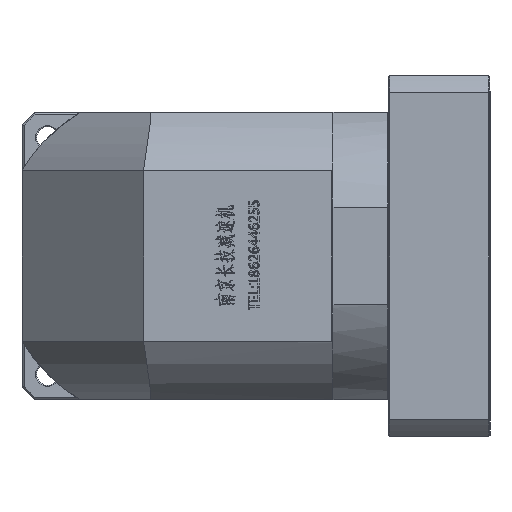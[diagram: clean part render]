
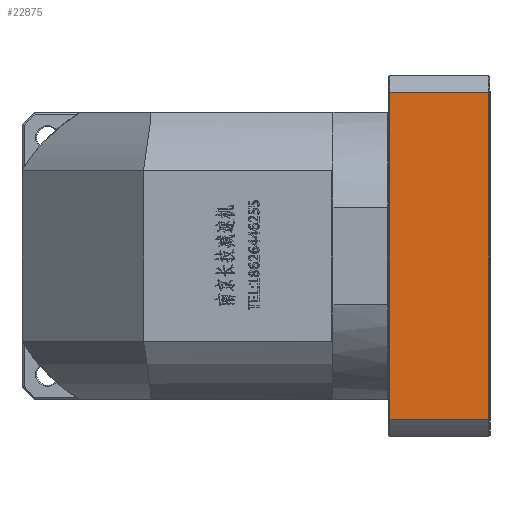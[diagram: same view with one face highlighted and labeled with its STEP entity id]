
A CAD part, left-side view. The second image highlights one B-rep face of the part: STEP entity #22875.
In plain terms, the highlighted planar face has unit normal (-1, 0, 0).
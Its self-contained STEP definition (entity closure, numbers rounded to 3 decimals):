
#1342 = CARTESIAN_POINT ( 'NONE',  ( -128.29, 192.497, 325.24 ) ) ;
#3259 = ORIENTED_EDGE ( 'NONE', *, *, #46669, .F. ) ;
#4909 = DIRECTION ( 'NONE',  ( 0., 1., 0. ) ) ;
#5859 = VECTOR ( 'NONE', #65422, 1000. ) ;
#7370 = CARTESIAN_POINT ( 'NONE',  ( -128.29, -200.308, 155.747 ) ) ;
#10729 = DIRECTION ( 'NONE',  ( 0., 0., -1. ) ) ;
#11055 = ORIENTED_EDGE ( 'NONE', *, *, #19654, .F. ) ;
#13833 = VERTEX_POINT ( 'NONE', #63871 ) ;
#19654 = EDGE_CURVE ( 'NONE', #81152, #73349, #69478, .T. ) ;
#22875 = ADVANCED_FACE ( 'NONE', ( #108217 ), #59469, .F. ) ;
#29700 = VECTOR ( 'NONE', #122266, 1000. ) ;
#45394 = LINE ( 'NONE', #55946, #47482 ) ;
#46669 = EDGE_CURVE ( 'NONE', #58720, #81152, #60637, .T. ) ;
#47482 = VECTOR ( 'NONE', #4909, 1000. ) ;
#54883 = EDGE_CURVE ( 'NONE', #73349, #13833, #45394, .T. ) ;
#55946 = CARTESIAN_POINT ( 'NONE',  ( -128.29, 192.497, 164.255 ) ) ;
#57619 = EDGE_LOOP ( 'NONE', ( #3259, #115563, #139419, #11055 ) ) ;
#58720 = VERTEX_POINT ( 'NONE', #115761 ) ;
#59469 = PLANE ( 'NONE',  #78469 ) ;
#60637 = LINE ( 'NONE', #1342, #5859 ) ;
#63871 = CARTESIAN_POINT ( 'NONE',  ( -128.29, -150.808, 164.255 ) ) ;
#65422 = DIRECTION ( 'NONE',  ( 0., -1., 0. ) ) ;
#69478 = LINE ( 'NONE', #165103, #85746 ) ;
#70574 = CARTESIAN_POINT ( 'NONE',  ( -128.29, -150.808, 155.747 ) ) ;
#73349 = VERTEX_POINT ( 'NONE', #116431 ) ;
#78469 = AXIS2_PLACEMENT_3D ( 'NONE', #7370, #150343, #97550 ) ;
#81152 = VERTEX_POINT ( 'NONE', #105475 ) ;
#82512 = LINE ( 'NONE', #70574, #29700 ) ;
#85746 = VECTOR ( 'NONE', #10729, 1000. ) ;
#97550 = DIRECTION ( 'NONE',  ( 0., 1., 0. ) ) ;
#104942 = EDGE_CURVE ( 'NONE', #13833, #58720, #82512, .T. ) ;
#105475 = CARTESIAN_POINT ( 'NONE',  ( -128.29, -199.808, 325.24 ) ) ;
#108217 = FACE_OUTER_BOUND ( 'NONE', #57619, .T. ) ;
#115563 = ORIENTED_EDGE ( 'NONE', *, *, #104942, .F. ) ;
#115761 = CARTESIAN_POINT ( 'NONE',  ( -128.29, -150.808, 325.24 ) ) ;
#116431 = CARTESIAN_POINT ( 'NONE',  ( -128.29, -199.808, 164.255 ) ) ;
#122266 = DIRECTION ( 'NONE',  ( 0., 0., 1. ) ) ;
#139419 = ORIENTED_EDGE ( 'NONE', *, *, #54883, .F. ) ;
#150343 = DIRECTION ( 'NONE',  ( 1., 0., 0. ) ) ;
#165103 = CARTESIAN_POINT ( 'NONE',  ( -128.29, -199.808, 173.747 ) ) ;
